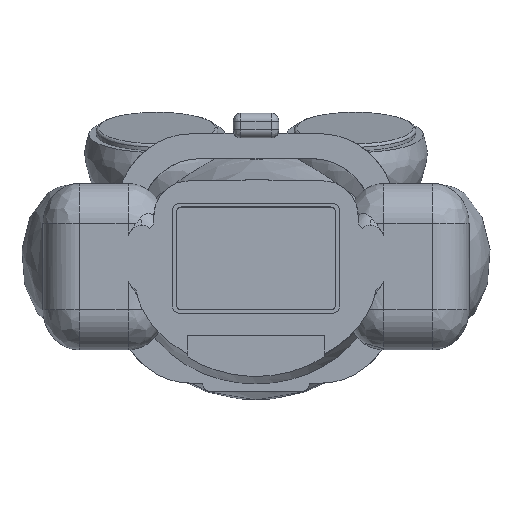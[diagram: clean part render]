
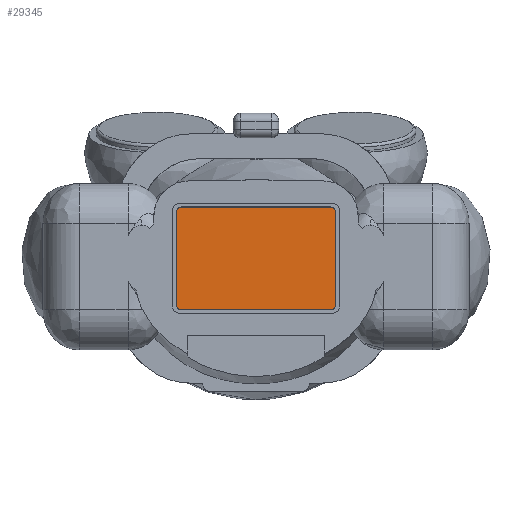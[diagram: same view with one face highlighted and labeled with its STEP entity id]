
A CAD part, top view. The second image highlights one B-rep face of the part: STEP entity #29345.
In plain terms, the highlighted planar face has unit normal (0, 0, 1).
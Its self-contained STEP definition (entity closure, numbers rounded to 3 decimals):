
#27743 = PLANE('',#27744);
#27744 = AXIS2_PLACEMENT_3D('',#27745,#27746,#27747);
#27745 = CARTESIAN_POINT('',(-11.3,-7.3,28.7));
#27746 = DIRECTION('',(0.,1.,0.));
#27747 = DIRECTION('',(1.,0.,0.));
#27771 = CYLINDRICAL_SURFACE('',#27772,0.7);
#27772 = AXIS2_PLACEMENT_3D('',#27773,#27774,#27775);
#27773 = CARTESIAN_POINT('',(-10.6,-6.6,28.7));
#27774 = DIRECTION('',(0.,0.,1.));
#27775 = DIRECTION('',(0.,-1.,0.));
#27798 = PLANE('',#27799);
#27799 = AXIS2_PLACEMENT_3D('',#27800,#27801,#27802);
#27800 = CARTESIAN_POINT('',(-11.3,7.3,28.7));
#27801 = DIRECTION('',(1.,0.,-0.));
#27802 = DIRECTION('',(0.,-1.,0.));
#27826 = CYLINDRICAL_SURFACE('',#27827,0.7);
#27827 = AXIS2_PLACEMENT_3D('',#27828,#27829,#27830);
#27828 = CARTESIAN_POINT('',(-10.6,6.6,28.7));
#27829 = DIRECTION('',(0.,0.,1.));
#27830 = DIRECTION('',(-0.,1.,0.));
#27853 = PLANE('',#27854);
#27854 = AXIS2_PLACEMENT_3D('',#27855,#27856,#27857);
#27855 = CARTESIAN_POINT('',(11.3,7.3,28.7));
#27856 = DIRECTION('',(0.,-1.,0.));
#27857 = DIRECTION('',(-1.,0.,0.));
#27881 = CYLINDRICAL_SURFACE('',#27882,0.7);
#27882 = AXIS2_PLACEMENT_3D('',#27883,#27884,#27885);
#27883 = CARTESIAN_POINT('',(10.6,6.6,28.7));
#27884 = DIRECTION('',(0.,0.,1.));
#27885 = DIRECTION('',(1.,0.,-0.));
#27908 = PLANE('',#27909);
#27909 = AXIS2_PLACEMENT_3D('',#27910,#27911,#27912);
#27910 = CARTESIAN_POINT('',(11.3,-7.3,28.7));
#27911 = DIRECTION('',(-1.,0.,0.));
#27912 = DIRECTION('',(0.,1.,0.));
#27934 = CYLINDRICAL_SURFACE('',#27935,0.7);
#27935 = AXIS2_PLACEMENT_3D('',#27936,#27937,#27938);
#27936 = CARTESIAN_POINT('',(10.6,-6.6,28.7));
#27937 = DIRECTION('',(0.,0.,1.));
#27938 = DIRECTION('',(0.,-1.,0.));
#28652 = EDGE_CURVE('',#28653,#28655,#28657,.T.);
#28653 = VERTEX_POINT('',#28654);
#28654 = CARTESIAN_POINT('',(-10.6,-7.3,28.7));
#28655 = VERTEX_POINT('',#28656);
#28656 = CARTESIAN_POINT('',(10.6,-7.3,28.7));
#28657 = SURFACE_CURVE('',#28658,(#28662,#28669),.PCURVE_S1.);
#28658 = LINE('',#28659,#28660);
#28659 = CARTESIAN_POINT('',(-11.3,-7.3,28.7));
#28660 = VECTOR('',#28661,1.);
#28661 = DIRECTION('',(1.,0.,0.));
#28662 = PCURVE('',#27743,#28663);
#28663 = DEFINITIONAL_REPRESENTATION('',(#28664),#28668);
#28664 = LINE('',#28665,#28666);
#28665 = CARTESIAN_POINT('',(0.,0.));
#28666 = VECTOR('',#28667,1.);
#28667 = DIRECTION('',(1.,0.));
#28668 = ( GEOMETRIC_REPRESENTATION_CONTEXT(2) 
PARAMETRIC_REPRESENTATION_CONTEXT() REPRESENTATION_CONTEXT('2D SPACE',''
  ) );
#28669 = PCURVE('',#28670,#28675);
#28670 = PLANE('',#28671);
#28671 = AXIS2_PLACEMENT_3D('',#28672,#28673,#28674);
#28672 = CARTESIAN_POINT('',(0.,0.,28.7));
#28673 = DIRECTION('',(0.,0.,1.));
#28674 = DIRECTION('',(1.,0.,-0.));
#28675 = DEFINITIONAL_REPRESENTATION('',(#28676),#28680);
#28676 = LINE('',#28677,#28678);
#28677 = CARTESIAN_POINT('',(-11.3,-7.3));
#28678 = VECTOR('',#28679,1.);
#28679 = DIRECTION('',(1.,0.));
#28680 = ( GEOMETRIC_REPRESENTATION_CONTEXT(2) 
PARAMETRIC_REPRESENTATION_CONTEXT() REPRESENTATION_CONTEXT('2D SPACE',''
  ) );
#28729 = EDGE_CURVE('',#28655,#28730,#28732,.T.);
#28730 = VERTEX_POINT('',#28731);
#28731 = CARTESIAN_POINT('',(11.3,-6.6,28.7));
#28732 = SURFACE_CURVE('',#28733,(#28738,#28745),.PCURVE_S1.);
#28733 = CIRCLE('',#28734,0.7);
#28734 = AXIS2_PLACEMENT_3D('',#28735,#28736,#28737);
#28735 = CARTESIAN_POINT('',(10.6,-6.6,28.7));
#28736 = DIRECTION('',(0.,0.,1.));
#28737 = DIRECTION('',(0.,-1.,0.));
#28738 = PCURVE('',#27934,#28739);
#28739 = DEFINITIONAL_REPRESENTATION('',(#28740),#28744);
#28740 = LINE('',#28741,#28742);
#28741 = CARTESIAN_POINT('',(0.,0.));
#28742 = VECTOR('',#28743,1.);
#28743 = DIRECTION('',(1.,0.));
#28744 = ( GEOMETRIC_REPRESENTATION_CONTEXT(2) 
PARAMETRIC_REPRESENTATION_CONTEXT() REPRESENTATION_CONTEXT('2D SPACE',''
  ) );
#28745 = PCURVE('',#28670,#28746);
#28746 = DEFINITIONAL_REPRESENTATION('',(#28747),#28751);
#28747 = CIRCLE('',#28748,0.7);
#28748 = AXIS2_PLACEMENT_2D('',#28749,#28750);
#28749 = CARTESIAN_POINT('',(10.6,-6.6));
#28750 = DIRECTION('',(0.,-1.));
#28751 = ( GEOMETRIC_REPRESENTATION_CONTEXT(2) 
PARAMETRIC_REPRESENTATION_CONTEXT() REPRESENTATION_CONTEXT('2D SPACE',''
  ) );
#28778 = EDGE_CURVE('',#28730,#28779,#28781,.T.);
#28779 = VERTEX_POINT('',#28780);
#28780 = CARTESIAN_POINT('',(11.3,6.6,28.7));
#28781 = SURFACE_CURVE('',#28782,(#28786,#28793),.PCURVE_S1.);
#28782 = LINE('',#28783,#28784);
#28783 = CARTESIAN_POINT('',(11.3,-7.3,28.7));
#28784 = VECTOR('',#28785,1.);
#28785 = DIRECTION('',(0.,1.,0.));
#28786 = PCURVE('',#27908,#28787);
#28787 = DEFINITIONAL_REPRESENTATION('',(#28788),#28792);
#28788 = LINE('',#28789,#28790);
#28789 = CARTESIAN_POINT('',(0.,0.));
#28790 = VECTOR('',#28791,1.);
#28791 = DIRECTION('',(1.,0.));
#28792 = ( GEOMETRIC_REPRESENTATION_CONTEXT(2) 
PARAMETRIC_REPRESENTATION_CONTEXT() REPRESENTATION_CONTEXT('2D SPACE',''
  ) );
#28793 = PCURVE('',#28670,#28794);
#28794 = DEFINITIONAL_REPRESENTATION('',(#28795),#28799);
#28795 = LINE('',#28796,#28797);
#28796 = CARTESIAN_POINT('',(11.3,-7.3));
#28797 = VECTOR('',#28798,1.);
#28798 = DIRECTION('',(0.,1.));
#28799 = ( GEOMETRIC_REPRESENTATION_CONTEXT(2) 
PARAMETRIC_REPRESENTATION_CONTEXT() REPRESENTATION_CONTEXT('2D SPACE',''
  ) );
#28828 = EDGE_CURVE('',#28779,#28829,#28831,.T.);
#28829 = VERTEX_POINT('',#28830);
#28830 = CARTESIAN_POINT('',(10.6,7.3,28.7));
#28831 = SURFACE_CURVE('',#28832,(#28837,#28844),.PCURVE_S1.);
#28832 = CIRCLE('',#28833,0.7);
#28833 = AXIS2_PLACEMENT_3D('',#28834,#28835,#28836);
#28834 = CARTESIAN_POINT('',(10.6,6.6,28.7));
#28835 = DIRECTION('',(0.,0.,1.));
#28836 = DIRECTION('',(0.,-1.,0.));
#28837 = PCURVE('',#27881,#28838);
#28838 = DEFINITIONAL_REPRESENTATION('',(#28839),#28843);
#28839 = LINE('',#28840,#28841);
#28840 = CARTESIAN_POINT('',(-1.571,0.));
#28841 = VECTOR('',#28842,1.);
#28842 = DIRECTION('',(1.,0.));
#28843 = ( GEOMETRIC_REPRESENTATION_CONTEXT(2) 
PARAMETRIC_REPRESENTATION_CONTEXT() REPRESENTATION_CONTEXT('2D SPACE',''
  ) );
#28844 = PCURVE('',#28670,#28845);
#28845 = DEFINITIONAL_REPRESENTATION('',(#28846),#28850);
#28846 = CIRCLE('',#28847,0.7);
#28847 = AXIS2_PLACEMENT_2D('',#28848,#28849);
#28848 = CARTESIAN_POINT('',(10.6,6.6));
#28849 = DIRECTION('',(0.,-1.));
#28850 = ( GEOMETRIC_REPRESENTATION_CONTEXT(2) 
PARAMETRIC_REPRESENTATION_CONTEXT() REPRESENTATION_CONTEXT('2D SPACE',''
  ) );
#28877 = EDGE_CURVE('',#28829,#28878,#28880,.T.);
#28878 = VERTEX_POINT('',#28879);
#28879 = CARTESIAN_POINT('',(-10.6,7.3,28.7));
#28880 = SURFACE_CURVE('',#28881,(#28885,#28892),.PCURVE_S1.);
#28881 = LINE('',#28882,#28883);
#28882 = CARTESIAN_POINT('',(11.3,7.3,28.7));
#28883 = VECTOR('',#28884,1.);
#28884 = DIRECTION('',(-1.,0.,0.));
#28885 = PCURVE('',#27853,#28886);
#28886 = DEFINITIONAL_REPRESENTATION('',(#28887),#28891);
#28887 = LINE('',#28888,#28889);
#28888 = CARTESIAN_POINT('',(0.,-0.));
#28889 = VECTOR('',#28890,1.);
#28890 = DIRECTION('',(1.,0.));
#28891 = ( GEOMETRIC_REPRESENTATION_CONTEXT(2) 
PARAMETRIC_REPRESENTATION_CONTEXT() REPRESENTATION_CONTEXT('2D SPACE',''
  ) );
#28892 = PCURVE('',#28670,#28893);
#28893 = DEFINITIONAL_REPRESENTATION('',(#28894),#28898);
#28894 = LINE('',#28895,#28896);
#28895 = CARTESIAN_POINT('',(11.3,7.3));
#28896 = VECTOR('',#28897,1.);
#28897 = DIRECTION('',(-1.,0.));
#28898 = ( GEOMETRIC_REPRESENTATION_CONTEXT(2) 
PARAMETRIC_REPRESENTATION_CONTEXT() REPRESENTATION_CONTEXT('2D SPACE',''
  ) );
#28927 = EDGE_CURVE('',#28878,#28928,#28930,.T.);
#28928 = VERTEX_POINT('',#28929);
#28929 = CARTESIAN_POINT('',(-11.3,6.6,28.7));
#28930 = SURFACE_CURVE('',#28931,(#28936,#28943),.PCURVE_S1.);
#28931 = CIRCLE('',#28932,0.7);
#28932 = AXIS2_PLACEMENT_3D('',#28933,#28934,#28935);
#28933 = CARTESIAN_POINT('',(-10.6,6.6,28.7));
#28934 = DIRECTION('',(0.,0.,1.));
#28935 = DIRECTION('',(0.,-1.,0.));
#28936 = PCURVE('',#27826,#28937);
#28937 = DEFINITIONAL_REPRESENTATION('',(#28938),#28942);
#28938 = LINE('',#28939,#28940);
#28939 = CARTESIAN_POINT('',(-3.142,0.));
#28940 = VECTOR('',#28941,1.);
#28941 = DIRECTION('',(1.,0.));
#28942 = ( GEOMETRIC_REPRESENTATION_CONTEXT(2) 
PARAMETRIC_REPRESENTATION_CONTEXT() REPRESENTATION_CONTEXT('2D SPACE',''
  ) );
#28943 = PCURVE('',#28670,#28944);
#28944 = DEFINITIONAL_REPRESENTATION('',(#28945),#28949);
#28945 = CIRCLE('',#28946,0.7);
#28946 = AXIS2_PLACEMENT_2D('',#28947,#28948);
#28947 = CARTESIAN_POINT('',(-10.6,6.6));
#28948 = DIRECTION('',(0.,-1.));
#28949 = ( GEOMETRIC_REPRESENTATION_CONTEXT(2) 
PARAMETRIC_REPRESENTATION_CONTEXT() REPRESENTATION_CONTEXT('2D SPACE',''
  ) );
#28976 = EDGE_CURVE('',#28928,#28977,#28979,.T.);
#28977 = VERTEX_POINT('',#28978);
#28978 = CARTESIAN_POINT('',(-11.3,-6.6,28.7));
#28979 = SURFACE_CURVE('',#28980,(#28984,#28991),.PCURVE_S1.);
#28980 = LINE('',#28981,#28982);
#28981 = CARTESIAN_POINT('',(-11.3,7.3,28.7));
#28982 = VECTOR('',#28983,1.);
#28983 = DIRECTION('',(0.,-1.,0.));
#28984 = PCURVE('',#27798,#28985);
#28985 = DEFINITIONAL_REPRESENTATION('',(#28986),#28990);
#28986 = LINE('',#28987,#28988);
#28987 = CARTESIAN_POINT('',(0.,0.));
#28988 = VECTOR('',#28989,1.);
#28989 = DIRECTION('',(1.,0.));
#28990 = ( GEOMETRIC_REPRESENTATION_CONTEXT(2) 
PARAMETRIC_REPRESENTATION_CONTEXT() REPRESENTATION_CONTEXT('2D SPACE',''
  ) );
#28991 = PCURVE('',#28670,#28992);
#28992 = DEFINITIONAL_REPRESENTATION('',(#28993),#28997);
#28993 = LINE('',#28994,#28995);
#28994 = CARTESIAN_POINT('',(-11.3,7.3));
#28995 = VECTOR('',#28996,1.);
#28996 = DIRECTION('',(0.,-1.));
#28997 = ( GEOMETRIC_REPRESENTATION_CONTEXT(2) 
PARAMETRIC_REPRESENTATION_CONTEXT() REPRESENTATION_CONTEXT('2D SPACE',''
  ) );
#29026 = EDGE_CURVE('',#28653,#28977,#29027,.T.);
#29027 = SURFACE_CURVE('',#29028,(#29033,#29040),.PCURVE_S1.);
#29028 = CIRCLE('',#29029,0.7);
#29029 = AXIS2_PLACEMENT_3D('',#29030,#29031,#29032);
#29030 = CARTESIAN_POINT('',(-10.6,-6.6,28.7));
#29031 = DIRECTION('',(-0.,-0.,-1.));
#29032 = DIRECTION('',(0.,-1.,0.));
#29033 = PCURVE('',#27771,#29034);
#29034 = DEFINITIONAL_REPRESENTATION('',(#29035),#29039);
#29035 = LINE('',#29036,#29037);
#29036 = CARTESIAN_POINT('',(-0.,0.));
#29037 = VECTOR('',#29038,1.);
#29038 = DIRECTION('',(-1.,0.));
#29039 = ( GEOMETRIC_REPRESENTATION_CONTEXT(2) 
PARAMETRIC_REPRESENTATION_CONTEXT() REPRESENTATION_CONTEXT('2D SPACE',''
  ) );
#29040 = PCURVE('',#28670,#29041);
#29041 = DEFINITIONAL_REPRESENTATION('',(#29042),#29050);
#29042 = ( BOUNDED_CURVE() B_SPLINE_CURVE(2,(#29043,#29044,#29045,#29046
    ,#29047,#29048,#29049),.UNSPECIFIED.,.T.,.F.) 
B_SPLINE_CURVE_WITH_KNOTS((1,2,2,2,2,1),(-2.094,0.,
    2.094,4.189,6.283,8.378),
.UNSPECIFIED.) CURVE() GEOMETRIC_REPRESENTATION_ITEM() 
RATIONAL_B_SPLINE_CURVE((1.,0.5,1.,0.5,1.,0.5,1.)) REPRESENTATION_ITEM(
  '') );
#29043 = CARTESIAN_POINT('',(-10.6,-7.3));
#29044 = CARTESIAN_POINT('',(-11.812,-7.3));
#29045 = CARTESIAN_POINT('',(-11.206,-6.25));
#29046 = CARTESIAN_POINT('',(-10.6,-5.2));
#29047 = CARTESIAN_POINT('',(-9.994,-6.25));
#29048 = CARTESIAN_POINT('',(-9.388,-7.3));
#29049 = CARTESIAN_POINT('',(-10.6,-7.3));
#29050 = ( GEOMETRIC_REPRESENTATION_CONTEXT(2) 
PARAMETRIC_REPRESENTATION_CONTEXT() REPRESENTATION_CONTEXT('2D SPACE',''
  ) );
#29345 = ADVANCED_FACE('',(#29346),#28670,.T.);
#29346 = FACE_BOUND('',#29347,.T.);
#29347 = EDGE_LOOP('',(#29348,#29349,#29350,#29351,#29352,#29353,#29354,
    #29355));
#29348 = ORIENTED_EDGE('',*,*,#28652,.T.);
#29349 = ORIENTED_EDGE('',*,*,#28729,.T.);
#29350 = ORIENTED_EDGE('',*,*,#28778,.T.);
#29351 = ORIENTED_EDGE('',*,*,#28828,.T.);
#29352 = ORIENTED_EDGE('',*,*,#28877,.T.);
#29353 = ORIENTED_EDGE('',*,*,#28927,.T.);
#29354 = ORIENTED_EDGE('',*,*,#28976,.T.);
#29355 = ORIENTED_EDGE('',*,*,#29026,.F.);
